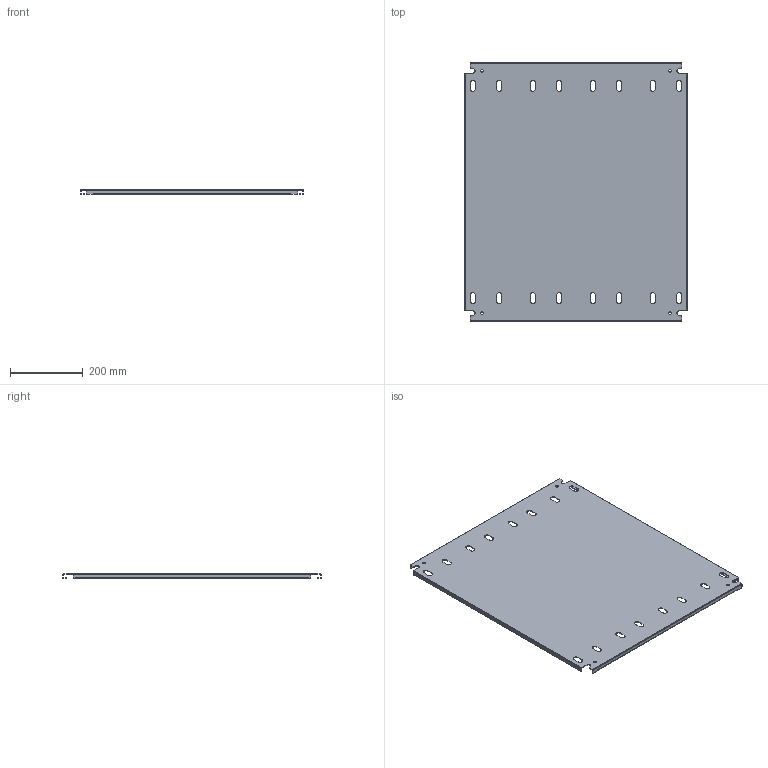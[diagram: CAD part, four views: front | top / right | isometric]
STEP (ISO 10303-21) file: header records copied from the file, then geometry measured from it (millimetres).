
FILE_DESCRIPTION(/* description */ ('1412BTCU 24.125" x 28" Right Inner Panel'),/* implementation_level */ '2;1');
FILE_NAME(/* name */ 'C:\Vault_Workspace\Inventor_Dwg\BoxCad\Result\1412BTCU091004DT\e-mail\3D\1412BTCU091004DTIP2.stp',/* time_stamp */ '2022-10-20T19:50:21-04:00',/* author */ ('BoxCad'),/* organization */ (''),/* preprocessor_version */ 'ST-DEVELOPER v18.1',/* originating_system */ 'Autodesk Inventor 2020',/* authorisation */ '');
FILE_SCHEMA (('AUTOMOTIVE_DESIGN { 1 0 10303 214 3 1 1 }'));
Length unit declared in the file: inch
Products named in the file (2): 1412BTCU091004DTIP2; 1412BTCU091004DTIP2-P
Assembly tree (1 placements, depth 2):
  1412BTCU091004DTIP2
    1412BTCU091004DTIP2-P
Bounding box: 612.77 x 711.2 x 13 mm (x, y, z)
Volume: 816058 mm3; surface area: 952198 mm2
Topology: 1 solids, 1 shells, 174 faces, 516 edges, 344 vertices
Faces by surface type: plane 98, cylinder 76
Full cylindrical faces by diameter (mm): 7.366 x4
Entity records: 6001 total; most frequent: CARTESIAN_POINT 1037, ORIENTED_EDGE 1032, DIRECTION 1022, EDGE_CURVE 516, LINE 364, VECTOR 364, VERTEX_POINT 344, AXIS2_PLACEMENT_3D 329
